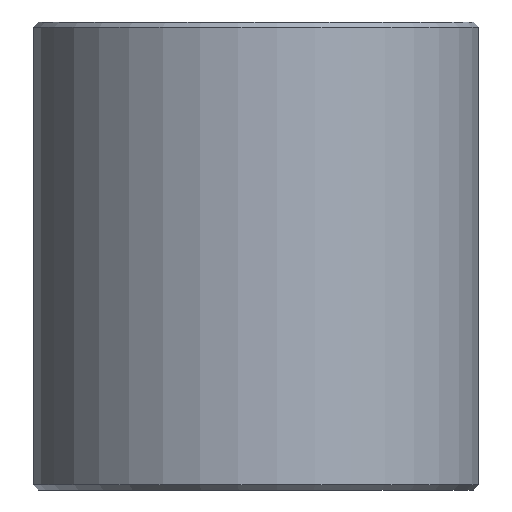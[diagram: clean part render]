
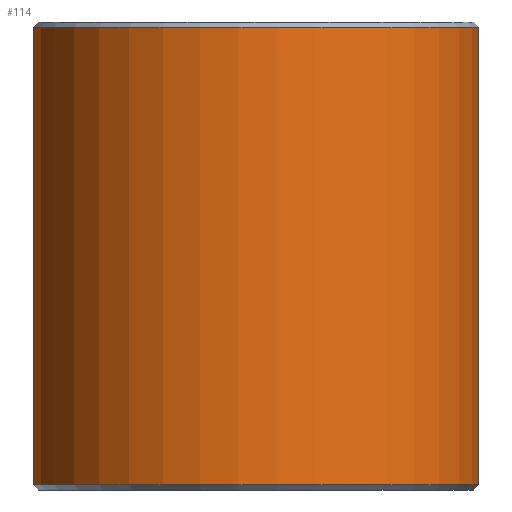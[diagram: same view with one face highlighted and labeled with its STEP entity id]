
A CAD part, front view. The second image highlights one B-rep face of the part: STEP entity #114.
In plain terms, the highlighted cylindrical face has radius 21.5 mm (diameter 43 mm), a partial arc.
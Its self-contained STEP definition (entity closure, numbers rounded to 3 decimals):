
#114=ADVANCED_FACE('',(#156,#157,#158),#128,.T.);
#128=CYLINDRICAL_SURFACE('',#321,21.5);
#132=LINE('',#445,#140);
#133=LINE('',#449,#141);
#140=VECTOR('',#343,1.);
#141=VECTOR('',#346,1.);
#148=CIRCLE('',#319,21.5);
#149=CIRCLE('',#320,21.5);
#156=FACE_BOUND('',#170,.T.);
#157=FACE_BOUND('',#171,.T.);
#158=FACE_BOUND('',#172,.T.);
#170=EDGE_LOOP('',(#192));
#171=EDGE_LOOP('',(#193));
#172=EDGE_LOOP('',(#194,#195,#196,#197));
#192=ORIENTED_EDGE('',*,*,#274,.T.);
#193=ORIENTED_EDGE('',*,*,#275,.T.);
#194=ORIENTED_EDGE('',*,*,#276,.T.);
#195=ORIENTED_EDGE('',*,*,#277,.T.);
#196=ORIENTED_EDGE('',*,*,#278,.T.);
#197=ORIENTED_EDGE('',*,*,#279,.T.);
#252=VERTEX_POINT('',#415);
#253=VERTEX_POINT('',#441);
#254=VERTEX_POINT('',#443);
#255=VERTEX_POINT('',#444);
#256=VERTEX_POINT('',#446);
#257=VERTEX_POINT('',#448);
#274=EDGE_CURVE('',#252,#252,#304,.T.);
#275=EDGE_CURVE('',#253,#253,#305,.T.);
#276=EDGE_CURVE('',#254,#255,#148,.T.);
#277=EDGE_CURVE('',#255,#256,#132,.T.);
#278=EDGE_CURVE('',#256,#257,#149,.T.);
#279=EDGE_CURVE('',#257,#254,#133,.T.);
#304=B_SPLINE_CURVE_WITH_KNOTS('',3,(#390,#391,#392,#393,#394,#395,#396,
#397,#398,#399,#400,#401,#402,#403,#404,#405,#406,#407,#408,#409,#410,#411,
#412,#413,#414),.UNSPECIFIED.,.T.,.F.,(1,3,3,3,3,3,3,3,3,3,1),(-0.125,0.,
0.125,0.25,0.375,0.5,0.625,0.75,0.875,1.,1.125),.UNSPECIFIED.);
#305=B_SPLINE_CURVE_WITH_KNOTS('',3,(#416,#417,#418,#419,#420,#421,#422,
#423,#424,#425,#426,#427,#428,#429,#430,#431,#432,#433,#434,#435,#436,#437,
#438,#439,#440),.UNSPECIFIED.,.T.,.F.,(1,3,3,3,3,3,3,3,3,3,1),(-0.125,0.,
0.125,0.25,0.375,0.5,0.625,0.75,0.875,1.,1.125),.UNSPECIFIED.);
#319=AXIS2_PLACEMENT_3D('',#442,#341,#342);
#320=AXIS2_PLACEMENT_3D('',#447,#344,#345);
#321=AXIS2_PLACEMENT_3D('',#450,#347,#348);
#341=DIRECTION('',(0.,0.,-1.));
#342=DIRECTION('',(1.,0.,0.));
#343=DIRECTION('',(0.,0.,-1.));
#344=DIRECTION('',(0.,0.,1.));
#345=DIRECTION('',(-1.,0.,0.));
#346=DIRECTION('',(0.,0.,1.));
#347=DIRECTION('',(0.,0.,1.));
#348=DIRECTION('',(1.,0.,0.));
#390=CARTESIAN_POINT('',(0.,21.5,34.35));
#391=CARTESIAN_POINT('',(0.838,21.5,34.35));
#392=CARTESIAN_POINT('',(1.664,21.443,34.701));
#393=CARTESIAN_POINT('',(2.24,21.383,35.287));
#394=CARTESIAN_POINT('',(2.815,21.323,35.874));
#395=CARTESIAN_POINT('',(3.139,21.27,36.683));
#396=CARTESIAN_POINT('',(3.139,21.27,37.5));
#397=CARTESIAN_POINT('',(3.139,21.27,38.317));
#398=CARTESIAN_POINT('',(2.818,21.322,39.123));
#399=CARTESIAN_POINT('',(2.24,21.383,39.712));
#400=CARTESIAN_POINT('',(1.661,21.444,40.302));
#401=CARTESIAN_POINT('',(0.838,21.5,40.65));
#402=CARTESIAN_POINT('',(0.,21.5,40.65));
#403=CARTESIAN_POINT('',(-0.838,21.5,40.65));
#404=CARTESIAN_POINT('',(-1.665,21.443,40.299));
#405=CARTESIAN_POINT('',(-2.24,21.383,39.713));
#406=CARTESIAN_POINT('',(-2.815,21.323,39.126));
#407=CARTESIAN_POINT('',(-3.139,21.27,38.314));
#408=CARTESIAN_POINT('',(-3.139,21.27,37.5));
#409=CARTESIAN_POINT('',(-3.139,21.27,36.686));
#410=CARTESIAN_POINT('',(-2.818,21.322,35.877));
#411=CARTESIAN_POINT('',(-2.24,21.383,35.287));
#412=CARTESIAN_POINT('',(-1.661,21.444,34.698));
#413=CARTESIAN_POINT('',(-0.838,21.5,34.35));
#414=CARTESIAN_POINT('',(0.,21.5,34.35));
#415=CARTESIAN_POINT('',(0.,21.5,34.35));
#416=CARTESIAN_POINT('',(0.,21.5,4.35));
#417=CARTESIAN_POINT('',(0.838,21.5,4.35));
#418=CARTESIAN_POINT('',(1.664,21.443,4.701));
#419=CARTESIAN_POINT('',(2.24,21.383,5.287));
#420=CARTESIAN_POINT('',(2.815,21.323,5.874));
#421=CARTESIAN_POINT('',(3.139,21.27,6.683));
#422=CARTESIAN_POINT('',(3.139,21.27,7.5));
#423=CARTESIAN_POINT('',(3.139,21.27,8.317));
#424=CARTESIAN_POINT('',(2.818,21.322,9.123));
#425=CARTESIAN_POINT('',(2.24,21.383,9.712));
#426=CARTESIAN_POINT('',(1.661,21.444,10.302));
#427=CARTESIAN_POINT('',(0.838,21.5,10.65));
#428=CARTESIAN_POINT('',(0.,21.5,10.65));
#429=CARTESIAN_POINT('',(-0.838,21.5,10.65));
#430=CARTESIAN_POINT('',(-1.665,21.443,10.299));
#431=CARTESIAN_POINT('',(-2.24,21.383,9.713));
#432=CARTESIAN_POINT('',(-2.815,21.323,9.126));
#433=CARTESIAN_POINT('',(-3.139,21.27,8.314));
#434=CARTESIAN_POINT('',(-3.139,21.27,7.5));
#435=CARTESIAN_POINT('',(-3.139,21.27,6.686));
#436=CARTESIAN_POINT('',(-2.818,21.322,5.877));
#437=CARTESIAN_POINT('',(-2.24,21.383,5.287));
#438=CARTESIAN_POINT('',(-1.661,21.444,4.698));
#439=CARTESIAN_POINT('',(-0.838,21.5,4.35));
#440=CARTESIAN_POINT('',(0.,21.5,4.35));
#441=CARTESIAN_POINT('',(0.,21.5,4.35));
#442=CARTESIAN_POINT('',(0.,0.,44.5));
#443=CARTESIAN_POINT('',(-21.392,2.15,44.5));
#444=CARTESIAN_POINT('',(-21.392,-2.15,44.5));
#445=CARTESIAN_POINT('',(-21.392,-2.15,0.));
#446=CARTESIAN_POINT('',(-21.392,-2.15,0.5));
#447=CARTESIAN_POINT('',(0.,0.,0.5));
#448=CARTESIAN_POINT('',(-21.392,2.15,0.5));
#449=CARTESIAN_POINT('',(-21.392,2.15,0.));
#450=CARTESIAN_POINT('',(0.,0.,0.));
